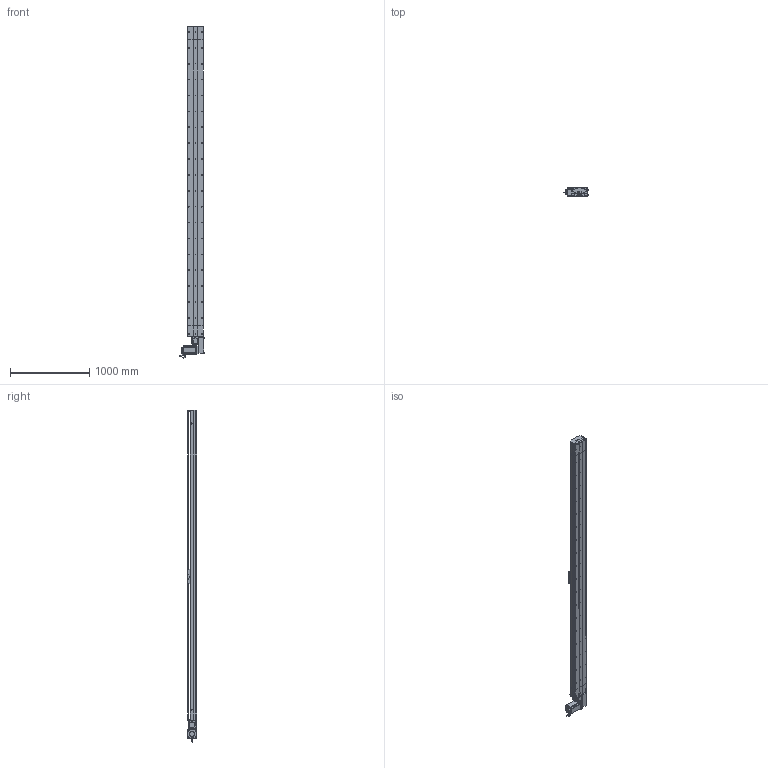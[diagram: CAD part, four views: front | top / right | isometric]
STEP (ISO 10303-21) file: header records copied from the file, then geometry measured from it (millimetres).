
FILE_DESCRIPTION (( 'STEP AP214' ), '1' );
FILE_NAME ('D20 TBH LH S3600.STEP', '2010-07-01T09:05:03', ( 'Conseil Régional Haute-Normandie' ), ( 'Conseil Régional Haute-Normandie' ), 'SwSTEP 2.0', 'SolidWorks 2010', '' );
FILE_SCHEMA (( 'AUTOMOTIVE_DESIGN' ));
Length unit declared in the file: millimetre
Products named in the file (40): vis M5 L70_Default; Plaque racord D20LH_Default; cache arbre D20_Default; head LH_Default; Renvoi LH D20_Default; vis M5 L5_Default; corpl head D20_Default; couroie_Default; chariot D20B_Default; guide D20B; cache D20_Default; poulie head D20_Default; couvercle head D20_Default; rail head D20; Chariot D20B; plaque de  bout head D20B LH_Default; rail tail D20; vis M5 L8 90°_Default; vis M5 L25_Default; vis M5 L12_Default; Moteur motionking 110BLDC170A-640x; codeur 110BLDC170A-630x; corps 110BLDC170A-630x; tete d''axe poulie D20B; couvercle tail D20_Default; Couroie tail D20_Default; plaque de  bout tail D20_Default; poulie tail D20_Default; corpl tail D20_Default; tail D20_Default; vis M8 L12_Default; clavette; Conecteur_Default; Conecteur2_Default; avant 110BLDC170A-630x; couvercle D20 S3600_Default; corp D20 S3600_Default; Course B L3600_Default; D20 TBH LH S3600; rail + couroie  D20 S3600
Assembly tree (71 placements, depth 4):
  D20 TBH LH S3600
    chariot D20B_Default
      guide D20B  x2
      vis M5 L12_Default  x4
      Chariot D20B
    head LH_Default
      vis M5 L12_Default  x10
      rail head D20
      vis M5 L5_Default  x4
      corpl head D20_Default
      vis M8 L12_Default  x4
      cache arbre D20_Default
      Moteur motionking 110BLDC170A-640x
        codeur 110BLDC170A-630x
        corps 110BLDC170A-630x
        avant 110BLDC170A-630x
        clavette
        Conecteur_Default
        Conecteur2_Default
      vis M5 L70_Default  x4
      Plaque racord D20LH_Default
      cache D20_Default  x2
      poulie head D20_Default
      couvercle head D20_Default
      vis M5 L25_Default  x2
      plaque de  bout head D20B LH_Default
      couroie_Default
      Renvoi LH D20_Default
    tail D20_Default
      vis M5 L8 90°_Default  x2
      vis M5 L12_Default  x4
      poulie tail D20_Default
      Couroie tail D20_Default
      plaque de  bout tail D20_Default
      vis M5 L25_Default  x2
      couvercle tail D20_Default
      rail tail D20
      corpl tail D20_Default
      tete d''axe poulie D20B
    Course B L3600_Default
      rail + couroie  D20 S3600
      corp D20 S3600_Default
      couvercle D20 S3600_Default
Bounding box: 304.2 x 115.7 x 4180 mm (x, y, z)
Volume: 31206381.8 mm3; surface area: 7762624.7 mm2
Topology: 95 solids, 95 shells, 2910 faces, 7536 edges, 4875 vertices
Faces by surface type: plane 1649, cylinder 937, bspline 136, cone 99, torus 89
Entity records: 95319 total; most frequent: CARTESIAN_POINT 31285, ORIENTED_EDGE 11728, DIRECTION 10975, EDGE_CURVE 5864, VERTEX_POINT 3861, VECTOR 3665, LINE 3665, AXIS2_PLACEMENT_3D 3655
